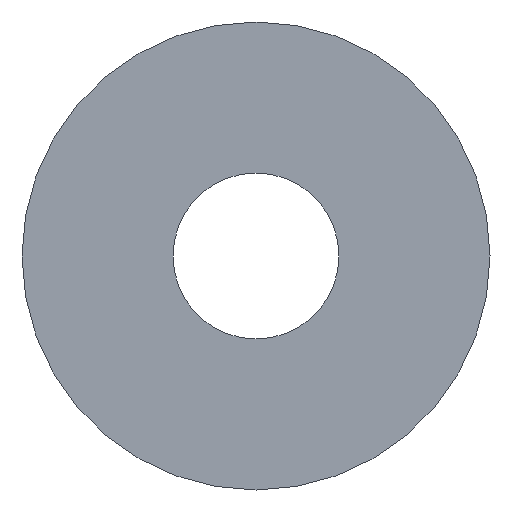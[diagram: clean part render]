
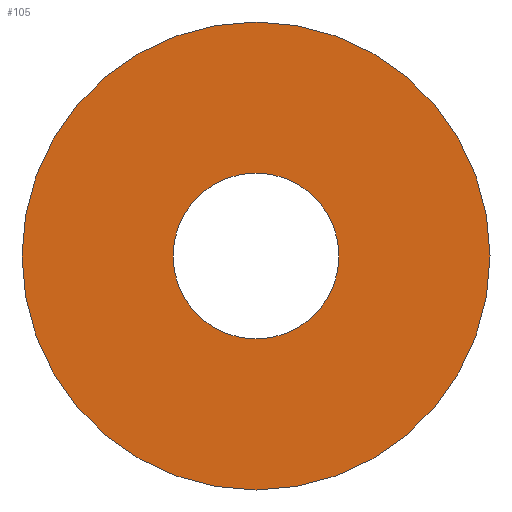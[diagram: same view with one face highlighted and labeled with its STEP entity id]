
A CAD part, front view. The second image highlights one B-rep face of the part: STEP entity #105.
In plain terms, the highlighted planar face has unit normal (0, -1, 0).
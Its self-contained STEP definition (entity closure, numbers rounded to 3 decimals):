
#31 = CYLINDRICAL_SURFACE('',#32,11.);
#32 = AXIS2_PLACEMENT_3D('',#33,#34,#35);
#33 = CARTESIAN_POINT('',(0.,2.6,0.));
#34 = DIRECTION('',(-0.,-1.,0.));
#35 = DIRECTION('',(-1.,0.,0.));
#56 = VERTEX_POINT('',#57);
#57 = CARTESIAN_POINT('',(-11.,0.,0.));
#78 = EDGE_CURVE('',#56,#56,#79,.T.);
#79 = SURFACE_CURVE('',#80,(#85,#92),.PCURVE_S1.);
#80 = CIRCLE('',#81,11.);
#81 = AXIS2_PLACEMENT_3D('',#82,#83,#84);
#82 = CARTESIAN_POINT('',(0.,0.,0.));
#83 = DIRECTION('',(0.,1.,0.));
#84 = DIRECTION('',(-1.,0.,0.));
#85 = PCURVE('',#31,#86);
#86 = DEFINITIONAL_REPRESENTATION('',(#87),#91);
#87 = LINE('',#88,#89);
#88 = CARTESIAN_POINT('',(-0.,2.6));
#89 = VECTOR('',#90,1.);
#90 = DIRECTION('',(-1.,0.));
#91 = ( GEOMETRIC_REPRESENTATION_CONTEXT(2) 
PARAMETRIC_REPRESENTATION_CONTEXT() REPRESENTATION_CONTEXT('2D SPACE',''
  ) );
#92 = PCURVE('',#93,#98);
#93 = PLANE('',#94);
#94 = AXIS2_PLACEMENT_3D('',#95,#96,#97);
#95 = CARTESIAN_POINT('',(0.,0.,0.));
#96 = DIRECTION('',(0.,1.,0.));
#97 = DIRECTION('',(-1.,0.,0.));
#98 = DEFINITIONAL_REPRESENTATION('',(#99),#103);
#99 = CIRCLE('',#100,11.);
#100 = AXIS2_PLACEMENT_2D('',#101,#102);
#101 = CARTESIAN_POINT('',(0.,0.));
#102 = DIRECTION('',(1.,0.));
#103 = ( GEOMETRIC_REPRESENTATION_CONTEXT(2) 
PARAMETRIC_REPRESENTATION_CONTEXT() REPRESENTATION_CONTEXT('2D SPACE',''
  ) );
#105 = ADVANCED_FACE('',(#106,#109),#93,.F.);
#106 = FACE_BOUND('',#107,.F.);
#107 = EDGE_LOOP('',(#108));
#108 = ORIENTED_EDGE('',*,*,#78,.T.);
#109 = FACE_BOUND('',#110,.F.);
#110 = EDGE_LOOP('',(#111));
#111 = ORIENTED_EDGE('',*,*,#112,.F.);
#112 = EDGE_CURVE('',#113,#113,#115,.T.);
#113 = VERTEX_POINT('',#114);
#114 = CARTESIAN_POINT('',(-3.9,0.,0.));
#115 = SURFACE_CURVE('',#116,(#121,#128),.PCURVE_S1.);
#116 = CIRCLE('',#117,3.9);
#117 = AXIS2_PLACEMENT_3D('',#118,#119,#120);
#118 = CARTESIAN_POINT('',(0.,0.,0.));
#119 = DIRECTION('',(0.,1.,0.));
#120 = DIRECTION('',(-1.,0.,0.));
#121 = PCURVE('',#93,#122);
#122 = DEFINITIONAL_REPRESENTATION('',(#123),#127);
#123 = CIRCLE('',#124,3.9);
#124 = AXIS2_PLACEMENT_2D('',#125,#126);
#125 = CARTESIAN_POINT('',(0.,0.));
#126 = DIRECTION('',(1.,0.));
#127 = ( GEOMETRIC_REPRESENTATION_CONTEXT(2) 
PARAMETRIC_REPRESENTATION_CONTEXT() REPRESENTATION_CONTEXT('2D SPACE',''
  ) );
#128 = PCURVE('',#129,#134);
#129 = CYLINDRICAL_SURFACE('',#130,3.9);
#130 = AXIS2_PLACEMENT_3D('',#131,#132,#133);
#131 = CARTESIAN_POINT('',(0.,0.,0.));
#132 = DIRECTION('',(0.,1.,0.));
#133 = DIRECTION('',(-1.,0.,0.));
#134 = DEFINITIONAL_REPRESENTATION('',(#135),#139);
#135 = LINE('',#136,#137);
#136 = CARTESIAN_POINT('',(0.,0.));
#137 = VECTOR('',#138,1.);
#138 = DIRECTION('',(1.,0.));
#139 = ( GEOMETRIC_REPRESENTATION_CONTEXT(2) 
PARAMETRIC_REPRESENTATION_CONTEXT() REPRESENTATION_CONTEXT('2D SPACE',''
  ) );
